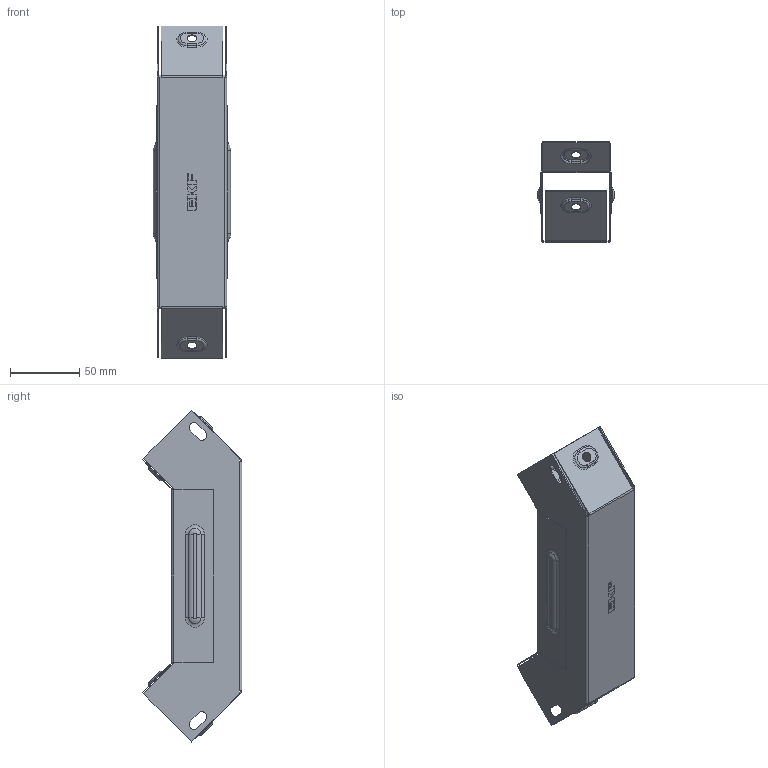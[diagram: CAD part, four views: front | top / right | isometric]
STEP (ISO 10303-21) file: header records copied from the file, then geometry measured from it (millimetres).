
FILE_DESCRIPTION (( 'STEP AP214' ), '1' );
FILE_NAME ('vi905050_捘.STEP', '2019-06-10T09:10:51', ( '砐錪賧瘔蠈錪 Windows' ), ( '' ), 'SwSTEP 2.0', 'SolidWorks 2018', '' );
FILE_SCHEMA (( 'AUTOMOTIVE_DESIGN' ));
Length unit declared in the file: millimetre
Products named in the file (1): vi905050_捘
Bounding box: 55.6 x 72.01 x 239.3 mm (x, y, z)
Volume: 40842.7 mm3; surface area: 103629.4 mm2
Topology: 2 solids, 2 shells, 416 faces, 1056 edges, 672 vertices
Faces by surface type: plane 222, cylinder 112, torus 64, bspline 18
Entity records: 13420 total; most frequent: CARTESIAN_POINT 3164, DIRECTION 2138, ORIENTED_EDGE 2112, EDGE_CURVE 1056, AXIS2_PLACEMENT_3D 719, VECTOR 700, LINE 700, VERTEX_POINT 672
